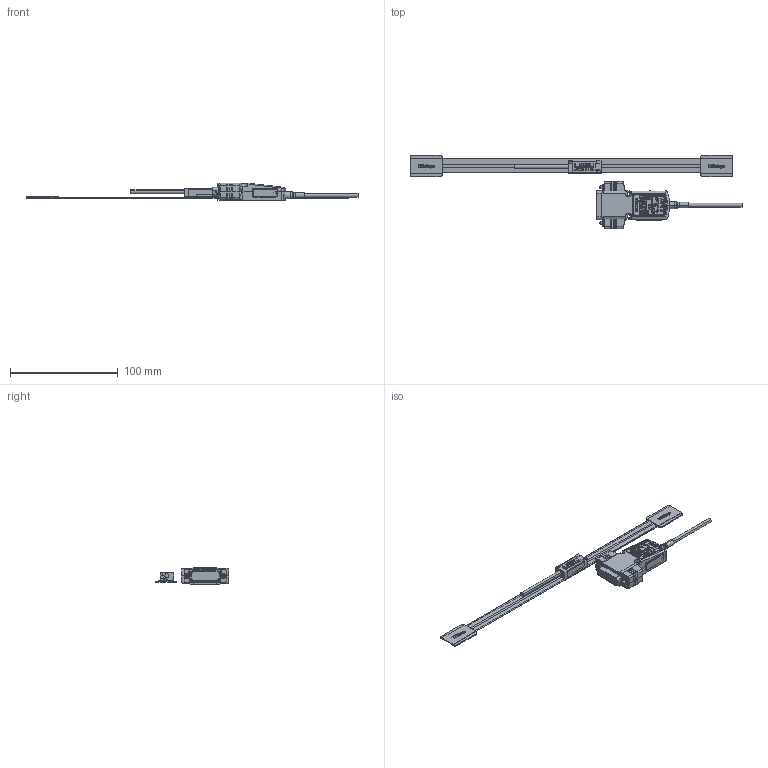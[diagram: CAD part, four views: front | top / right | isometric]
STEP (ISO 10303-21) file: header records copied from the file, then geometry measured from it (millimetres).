
FILE_DESCRIPTION(('Creo Elements/Direct Modeling STEP Export'),'2;1');
FILE_NAME('ST46EZA-200E.stp','2018-03-16T15:16:19',(''),(''),'Creo Elements/Direct Modeling STEP processor for AP214 (Solid Model)','Creo Elements/Direct Modeling 18.1B 29-Sep-2012 (C) Parametric Technology GmbH','');
FILE_SCHEMA(('AUTOMOTIVE_DESIGN { 1 0 10303 214 1 1 1 1 }'));
Length unit declared in the file: millimetre
Products named in the file (4): Scale_200; Detector_Head; IF_Unit; ST46EZA-200E
Assembly tree (3 placements, depth 2):
  ST46EZA-200E
    IF_Unit
    Detector_Head
    Scale_200
Bounding box: 308.5 x 68.36 x 16.3 mm (x, y, z)
Volume: 5308.2 mm3; surface area: 22877.3 mm2
Topology: 2 solids, 4 shells, 2294 faces, 6260 edges, 4149 vertices
Faces by surface type: plane 1426, cylinder 732, extrusion 39, cone 34, torus 30, bspline 29, revolution 4
Entity records: 79680 total; most frequent: CARTESIAN_POINT 20756, ORIENTED_EDGE 12511, DIRECTION 11375, EDGE_CURVE 6260, VECTOR 4311, LINE 4292, VERTEX_POINT 4149, AXIS2_PLACEMENT_3D 3529
